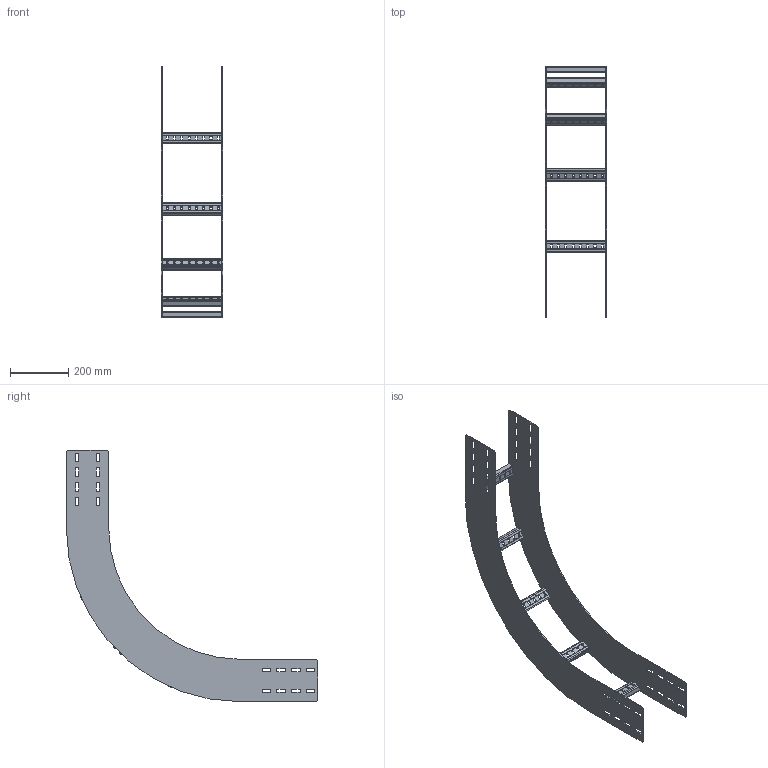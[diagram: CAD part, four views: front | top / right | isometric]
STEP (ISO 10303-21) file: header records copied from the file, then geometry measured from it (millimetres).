
FILE_DESCRIPTION(('Creo Elements/Direct Modeling STEP Export'),'2;1');
FILE_NAME('WPIR15-20-90-45.stp','2016-06-01T14:33:16',(''),(''),'PTC Creo Elements/Direct Modeling STEP processor for AP214 (Solid Model)','PTC Creo Elements/Direct Modeling 19.0C 15-Aug-2015 (C) Parametric Technology GmbH','');
FILE_SCHEMA(('AUTOMOTIVE_DESIGN { 1 0 10303 214 1 1 1 1 }'));
Length unit declared in the file: millimetre
Products named in the file (3): WPIBG150_450; WPHBS20; WPIR15-20-90-45
Assembly tree (7 placements, depth 2):
  WPIR15-20-90-45
    WPHBS20  x5
    WPIBG150_450  x2
Bounding box: 211 x 860 x 860 mm (x, y, z)
Volume: 1291405.2 mm3; surface area: 993609.4 mm2
Topology: 7 solids, 7 shells, 516 faces, 1506 edges, 1004 vertices
Faces by surface type: plane 342, cylinder 174
Entity records: 5145 total; most frequent: CARTESIAN_POINT 888, ORIENTED_EDGE 876, DIRECTION 826, EDGE_CURVE 438, VECTOR 366, LINE 366, VERTEX_POINT 292, AXIS2_PLACEMENT_3D 230
